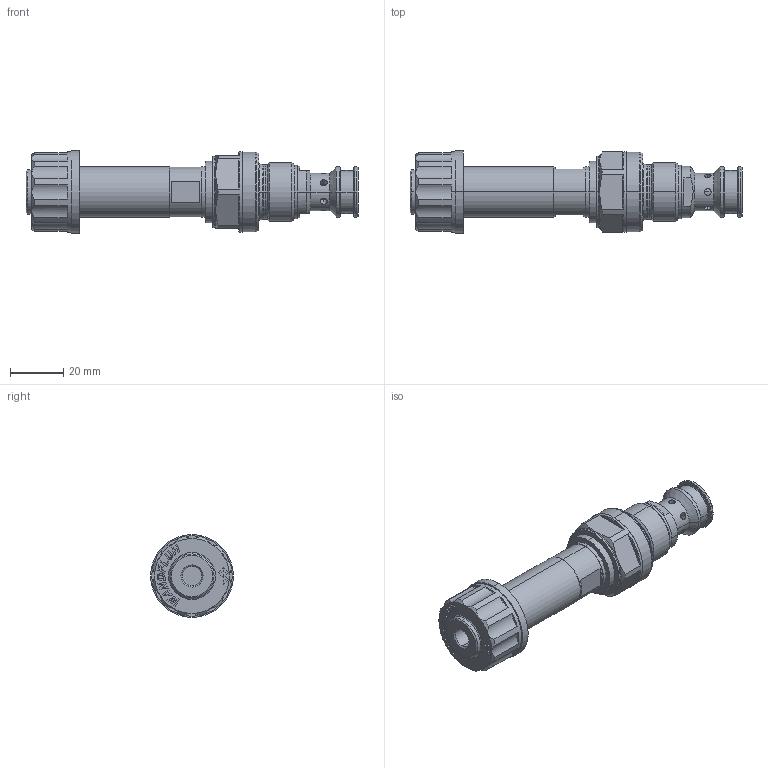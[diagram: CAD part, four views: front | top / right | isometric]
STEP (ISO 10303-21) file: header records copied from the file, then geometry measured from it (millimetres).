
FILE_DESCRIPTION (( 'STEP AP214' ), '1' );
FILE_NAME ('SDSPM22-X5-AB.STEP', '2018-09-13T09:34:57', ( '' ), ( '' ), 'SwSTEP 2.0', 'SolidWorks 2016', '' );
FILE_SCHEMA (( 'AUTOMOTIVE_DESIGN' ));
Length unit declared in the file: millimetre
Products named in the file (2): SDSPM22-X5-AB
Bounding box: 124.2 x 31 x 31 mm (x, y, z)
Volume: 45890.4 mm3; surface area: 15395.5 mm2
Topology: 2 solids, 2 shells, 380 faces, 913 edges, 580 vertices
Faces by surface type: plane 169, cylinder 102, cone 61, torus 26, bspline 22
Entity records: 16713 total; most frequent: CARTESIAN_POINT 3775, ORIENTED_EDGE 1826, DIRECTION 1821, EDGE_CURVE 913, AXIS2_PLACEMENT_3D 672, VERTEX_POINT 580, LINE 477, VECTOR 477
